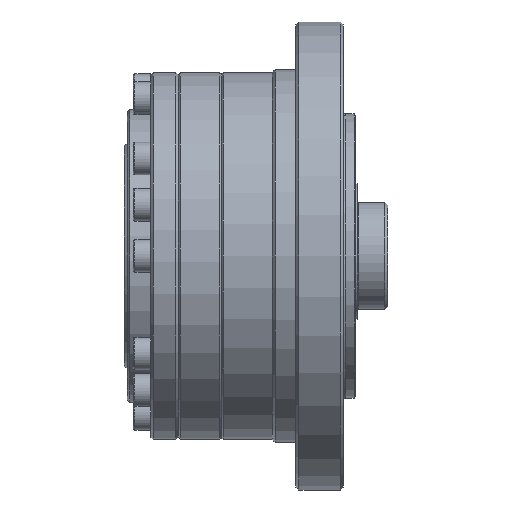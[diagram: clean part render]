
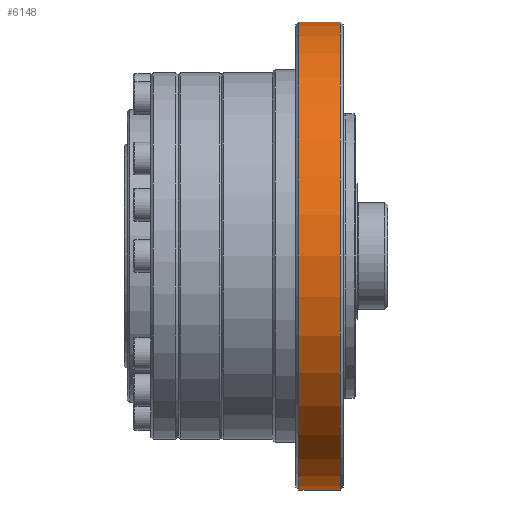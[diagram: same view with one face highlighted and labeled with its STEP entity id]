
A CAD part, front view. The second image highlights one B-rep face of the part: STEP entity #6148.
In plain terms, the highlighted cylindrical face has radius 39.5 mm (diameter 79 mm), a full revolution.
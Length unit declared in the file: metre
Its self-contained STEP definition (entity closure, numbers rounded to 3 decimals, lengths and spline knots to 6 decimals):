
#545 = AXIS2_PLACEMENT_3D ( 'NONE', #20982, #30504, #4387 ) ;
#599 = EDGE_CURVE ( 'NONE', #15327, #15327, #28376, .T. ) ;
#3614 = DIRECTION ( 'NONE',  ( 1., 0., 0. ) ) ;
#3760 = CARTESIAN_POINT ( 'NONE',  ( -0.041837, 0., 0.0395 ) ) ;
#4156 = EDGE_LOOP ( 'NONE', ( #14169 ) ) ;
#4387 = DIRECTION ( 'NONE',  ( 0., 0., 1. ) ) ;
#6148 = ADVANCED_FACE ( 'NONE', ( #21276, #16273 ), #11566, .T. ) ;
#7828 = CIRCLE ( 'NONE', #30833, 0.0395 ) ;
#9489 = EDGE_LOOP ( 'NONE', ( #21070 ) ) ;
#11566 = CYLINDRICAL_SURFACE ( 'NONE', #545, 0.0395 ) ;
#11867 = DIRECTION ( 'NONE',  ( 1., 0., 0. ) ) ;
#14169 = ORIENTED_EDGE ( 'NONE', *, *, #599, .F. ) ;
#15327 = VERTEX_POINT ( 'NONE', #3760 ) ;
#16273 = FACE_OUTER_BOUND ( 'NONE', #9489, .T. ) ;
#20982 = CARTESIAN_POINT ( 'NONE',  ( -0.064137, 0., 0. ) ) ;
#21070 = ORIENTED_EDGE ( 'NONE', *, *, #23463, .T. ) ;
#21276 = FACE_OUTER_BOUND ( 'NONE', #4156, .T. ) ;
#21427 = DIRECTION ( 'NONE',  ( 0., 0., 1. ) ) ;
#21609 = VERTEX_POINT ( 'NONE', #28652 ) ;
#22385 = AXIS2_PLACEMENT_3D ( 'NONE', #28116, #3614, #25912 ) ;
#23463 = EDGE_CURVE ( 'NONE', #21609, #21609, #7828, .T. ) ;
#25912 = DIRECTION ( 'NONE',  ( 0., 0., 1. ) ) ;
#26270 = CARTESIAN_POINT ( 'NONE',  ( -0.048837, 0., 0. ) ) ;
#28116 = CARTESIAN_POINT ( 'NONE',  ( -0.041837, 0., 0. ) ) ;
#28376 = CIRCLE ( 'NONE', #22385, 0.0395 ) ;
#28652 = CARTESIAN_POINT ( 'NONE',  ( -0.048837, 0., 0.0395 ) ) ;
#30504 = DIRECTION ( 'NONE',  ( -1., 0., 0. ) ) ;
#30833 = AXIS2_PLACEMENT_3D ( 'NONE', #26270, #11867, #21427 ) ;
